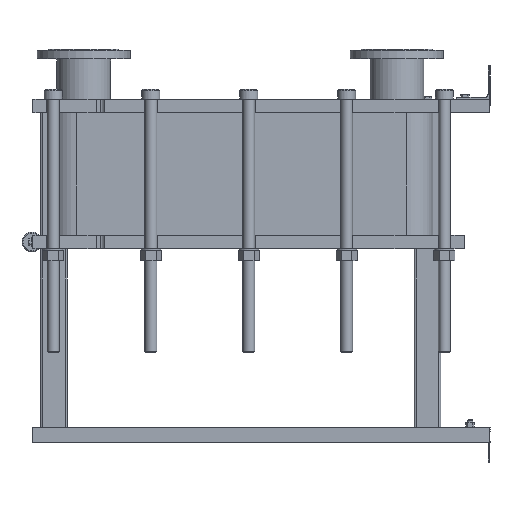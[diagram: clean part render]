
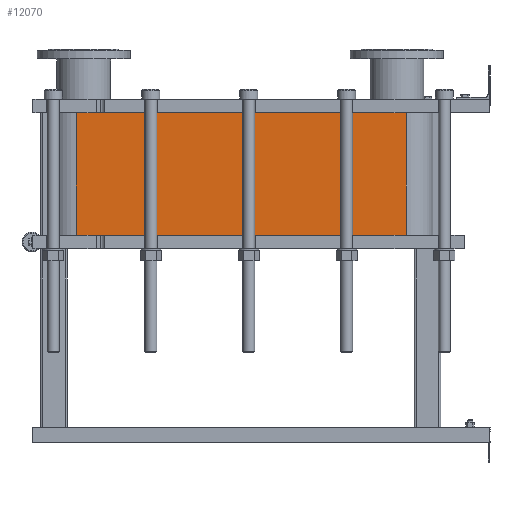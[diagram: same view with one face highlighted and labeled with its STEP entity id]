
A CAD part, left-side view. The second image highlights one B-rep face of the part: STEP entity #12070.
In plain terms, the highlighted planar face has unit normal (-1, 0, 0).
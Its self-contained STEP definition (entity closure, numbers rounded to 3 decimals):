
#1064=LINE('',#21140,#2164);
#1065=LINE('',#21144,#2165);
#1066=LINE('',#21146,#2166);
#1067=LINE('',#21147,#2167);
#2164=VECTOR('',#15790,10.);
#2165=VECTOR('',#15795,10.);
#2166=VECTOR('',#15796,10.);
#2167=VECTOR('',#15797,10.);
#3304=FACE_OUTER_BOUND('',#4091,.T.);
#4091=EDGE_LOOP('',(#9793,#9794,#9795,#9796));
#5677=VERTEX_POINT('',#21137);
#5678=VERTEX_POINT('',#21139);
#5679=VERTEX_POINT('',#21143);
#5680=VERTEX_POINT('',#21145);
#7118=EDGE_CURVE('',#5678,#5677,#1064,.T.);
#7120=EDGE_CURVE('',#5677,#5679,#1065,.T.);
#7121=EDGE_CURVE('',#5680,#5679,#1066,.T.);
#7122=EDGE_CURVE('',#5680,#5678,#1067,.T.);
#9793=ORIENTED_EDGE('',*,*,#7120,.T.);
#9794=ORIENTED_EDGE('',*,*,#7121,.F.);
#9795=ORIENTED_EDGE('',*,*,#7122,.T.);
#9796=ORIENTED_EDGE('',*,*,#7118,.T.);
#11441=PLANE('',#13191);
#12070=ADVANCED_FACE('',(#3304),#11441,.T.);
#13191=AXIS2_PLACEMENT_3D('',#21142,#15793,#15794);
#15790=DIRECTION('',(0.,0.,-1.));
#15793=DIRECTION('center_axis',(-1.,0.,0.));
#15794=DIRECTION('ref_axis',(0.,1.,0.));
#15795=DIRECTION('',(0.,-1.,0.));
#15796=DIRECTION('',(0.,0.,-1.));
#15797=DIRECTION('',(0.,1.,0.));
#21137=CARTESIAN_POINT('',(-248.152,1243.818,-369.15));
#21139=CARTESIAN_POINT('',(-248.152,1243.818,0.));
#21140=CARTESIAN_POINT('',(-248.152,1243.818,0.));
#21142=CARTESIAN_POINT('Origin',(-248.152,251.818,0.));
#21143=CARTESIAN_POINT('',(-248.152,251.818,-369.15));
#21144=CARTESIAN_POINT('',(-248.152,499.818,-369.15));
#21145=CARTESIAN_POINT('',(-248.152,251.818,0.));
#21146=CARTESIAN_POINT('',(-248.152,251.818,0.));
#21147=CARTESIAN_POINT('',(-248.152,251.818,0.));
